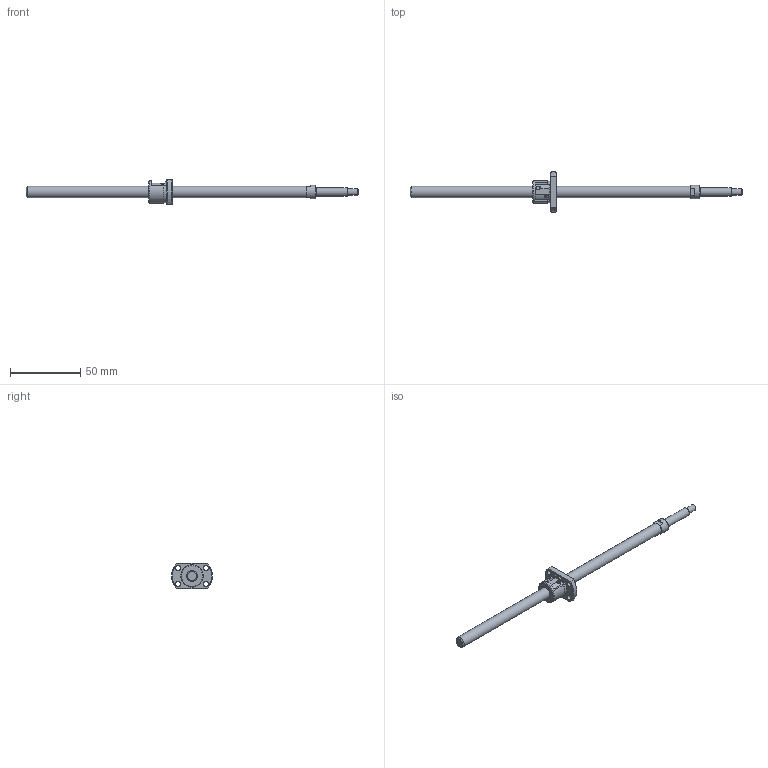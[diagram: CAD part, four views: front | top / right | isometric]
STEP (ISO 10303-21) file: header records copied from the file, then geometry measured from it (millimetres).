
FILE_DESCRIPTION(/* description */ ('STEP AP214'),/* implementation_level */ '2;1');
FILE_NAME(/* name */ 'SRT0801-196R237C7A0X(87.5Processing)',/* time_stamp */ '2026-08-04T19:54:19+02:00',/* author */ ('License CC BY-ND 4.0'),/* organization */ ('CADENAS'),/* preprocessor_version */ 'ST-DEVELOPER v20',/* originating_system */ 'PARTsolutions',/* authorisation */ ' ');
FILE_SCHEMA (('AUTOMOTIVE_DESIGN {1 0 10303 214 3 1 1}'));
Length unit declared in the file: millimetre
Products named in the file (3): SRT0801-196R237C7A0X(87.5Processing); SRT0801-196R270ACt7Processing29Shaft; SRT0801Nut
Assembly tree (2 placements, depth 2):
  SRT0801-196R237C7A0X(87.5Processing)
    SRT0801-196R270ACt7Processing29Shaft
    SRT0801Nut
Bounding box: 237 x 29 x 18 mm (x, y, z)
Volume: 14612.5 mm3; surface area: 8274.7 mm2
Topology: 2 solids, 2 shells, 64 faces, 156 edges, 99 vertices
Faces by surface type: plane 31, cylinder 17, cone 15, torus 1
Full cylindrical faces by diameter (mm): 2 x2, 3.4 x4, 4.5 x1, 6 x1, 8 x2, 9.5 x1, 15.5 x1, 16 x1
Entity records: 1805 total; most frequent: CARTESIAN_POINT 347, DIRECTION 302, ORIENTED_EDGE 248, AXIS2_PLACEMENT_3D 129, EDGE_CURVE 124, EDGE_LOOP 98, FACE_BOUND 98, VERTEX_POINT 88
